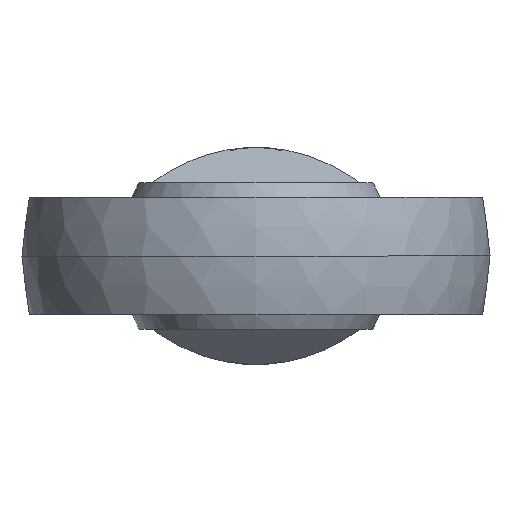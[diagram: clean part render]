
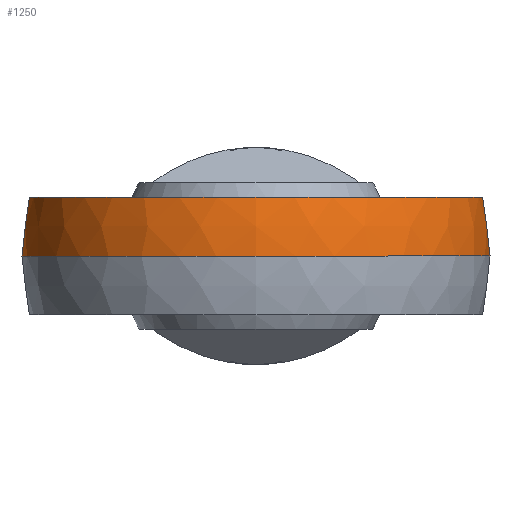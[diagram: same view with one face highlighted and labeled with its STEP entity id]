
A CAD part, left-side view. The second image highlights one B-rep face of the part: STEP entity #1250.
In plain terms, the highlighted spherical face has radius 56 mm.
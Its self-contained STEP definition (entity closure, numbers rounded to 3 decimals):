
#600 = DIRECTION ( 'NONE',  ( 0., 1., 0. ) ) ;
#601 = DIRECTION ( 'NONE',  ( 0., 0., 1. ) ) ;
#602 = CARTESIAN_POINT ( 'NONE',  ( 0., 0., 0. ) ) ;
#603 = AXIS2_PLACEMENT_3D ( 'NONE', #602, #601, #600 ) ;
#605 = SPHERICAL_SURFACE ( 'NONE', #603, 56. ) ;
#606 = FACE_OUTER_BOUND ( 'NONE', #1249, .T. ) ;
#659 = DIRECTION ( 'NONE',  ( 0., 1., 0. ) ) ;
#660 = DIRECTION ( 'NONE',  ( 1., 0., 0. ) ) ;
#661 = CARTESIAN_POINT ( 'NONE',  ( 25.567, 0., 0. ) ) ;
#662 = AXIS2_PLACEMENT_3D ( 'NONE', #661, #660, #659 ) ;
#663 = CIRCLE ( 'NONE', #662, 49.823 ) ;
#664 = DIRECTION ( 'NONE',  ( -1., 0., 0. ) ) ;
#665 = DIRECTION ( 'NONE',  ( 0., 0., 1. ) ) ;
#666 = CARTESIAN_POINT ( 'NONE',  ( 0., 0., 14. ) ) ;
#667 = AXIS2_PLACEMENT_3D ( 'NONE', #666, #665, #664 ) ;
#668 = CIRCLE ( 'NONE', #667, 54.222 ) ;
#669 = CARTESIAN_POINT ( 'NONE',  ( 25.567, -47.815, 14. ) ) ;
#670 = CARTESIAN_POINT ( 'NONE',  ( 25.567, -49.823, 0. ) ) ;
#671 = DIRECTION ( 'NONE',  ( 0., 1., 0. ) ) ;
#672 = DIRECTION ( 'NONE',  ( 1., 0., 0. ) ) ;
#673 = CARTESIAN_POINT ( 'NONE',  ( 25.567, 0., 0. ) ) ;
#674 = AXIS2_PLACEMENT_3D ( 'NONE', #673, #672, #671 ) ;
#675 = CARTESIAN_POINT ( 'NONE',  ( 25.567, 47.815, 14. ) ) ;
#681 = CIRCLE ( 'NONE', #674, 49.823 ) ;
#695 = CARTESIAN_POINT ( 'NONE',  ( 25.567, 49.823, 0. ) ) ;
#696 = DIRECTION ( 'NONE',  ( 0., -1., 0. ) ) ;
#697 = DIRECTION ( 'NONE',  ( 0., 0., 1. ) ) ;
#698 = CARTESIAN_POINT ( 'NONE',  ( 0., 0., 0. ) ) ;
#699 = AXIS2_PLACEMENT_3D ( 'NONE', #698, #697, #696 ) ;
#700 = CIRCLE ( 'NONE', #699, 56. ) ;
#701 = CARTESIAN_POINT ( 'NONE',  ( -56., 0., 0. ) ) ;
#703 = DIRECTION ( 'NONE',  ( -1., 0., 0. ) ) ;
#704 = DIRECTION ( 'NONE',  ( 0., 0., -1. ) ) ;
#705 = CARTESIAN_POINT ( 'NONE',  ( 0., 0., 0. ) ) ;
#706 = AXIS2_PLACEMENT_3D ( 'NONE', #705, #704, #703 ) ;
#707 = CIRCLE ( 'NONE', #706, 56. ) ;
#1249 = EDGE_LOOP ( 'NONE', ( #1292, #1299, #1277, #1280, #1273 ) ) ;
#1250 = ADVANCED_FACE ( 'NONE', ( #606 ), #605, .T. ) ;
#1273 = ORIENTED_EDGE ( 'NONE', *, *, #1274, .F. ) ;
#1274 = EDGE_CURVE ( 'NONE', #1298, #1275, #681, .T. ) ;
#1275 = VERTEX_POINT ( 'NONE', #675 ) ;
#1276 = VERTEX_POINT ( 'NONE', #670 ) ;
#1277 = ORIENTED_EDGE ( 'NONE', *, *, #1282, .F. ) ;
#1279 = VERTEX_POINT ( 'NONE', #669 ) ;
#1280 = ORIENTED_EDGE ( 'NONE', *, *, #1281, .F. ) ;
#1281 = EDGE_CURVE ( 'NONE', #1275, #1279, #668, .T. ) ;
#1282 = EDGE_CURVE ( 'NONE', #1279, #1276, #663, .T. ) ;
#1292 = ORIENTED_EDGE ( 'NONE', *, *, #1293, .F. ) ;
#1293 = EDGE_CURVE ( 'NONE', #1296, #1298, #707, .T. ) ;
#1296 = VERTEX_POINT ( 'NONE', #701 ) ;
#1297 = EDGE_CURVE ( 'NONE', #1296, #1276, #700, .T. ) ;
#1298 = VERTEX_POINT ( 'NONE', #695 ) ;
#1299 = ORIENTED_EDGE ( 'NONE', *, *, #1297, .T. ) ;
